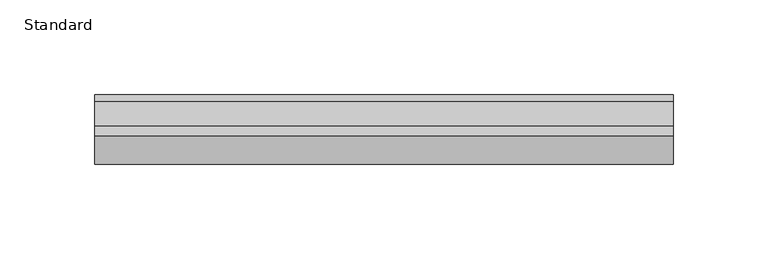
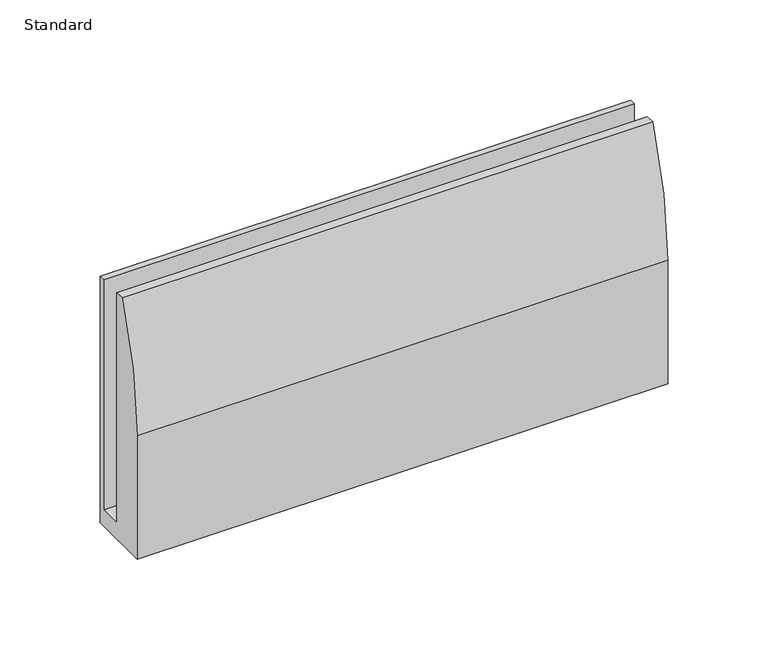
"""IFC4 building model written with IfcOpenShell, lengths in millimetres: furniture geometry, X_Partition-Channel-Duracube-Skirting : Standard."""

from ifc_helpers import new_model, si_unit, point, frame, frame_2d, origin, place, context, project, spatial, polyline, circle_curve, trimmed, segment, composite_curve, outline, extrude, source, transform, mapped, element, save


def standard_c2cb3ece(model_context):
    return source(origin(), model_context, "Body", "SweptSolid", [
        extrude(outline(composite_curve([segment(polyline([(-3.5, 150.0), (0.0, 150.0), (0.0, 0.0), (-36.5, 0.0), (-36.5, 75.0)]), True, "CONTINUOUS"), segment(trimmed(circle_curve(frame_2d((158.5, 75.0)), 195.0), [point((-36.5, 75.0))], [point((-21.5, 150.0))], False, "CARTESIAN"), True, "CONTINUOUS"), segment(polyline([(-21.5, 150.0), (-16.5, 150.0), (-16.5, 10.000005), (-3.5, 10.000005), (-3.5, 150.0)]), True, "CONTINUOUS")], self_intersect=False)), frame((-107.7996736, 0.0, 0.0), z_axis=(1.0, 0.0, 0.0), x_axis=(0.0, 1.0, 0.0)), (0.0, 0.0, 1.0), 305.0),
    ])


if __name__ == "__main__":
    model = new_model("IFC4")
    model_context = context("Model", 3, world=origin())
    ifc_project = project(units=[si_unit("LENGTHUNIT", "METRE", prefix="MILLI")], contexts=[model_context])
    site = spatial("IfcSite", under=ifc_project)
    building = spatial("IfcBuilding", under=site)
    placement = place(None, origin())
    standard_shape = standard_c2cb3ece(model_context)
    element("IfcFurniture", 1, ObjectType="X_Partition-Channel-Duracube-Skirting : Standard", at=placement, inside=building, context=model_context, shape_type="MappedRepresentation", body=[
        mapped(standard_shape, transform((0.0, 0.0, 0.0), x_axis=(1.0, 0.0, 0.0), y_axis=(0.0, 1.0, 0.0), z_axis=(0.0, 0.0, 1.0))),
    ])
    save(model, "model.ifc")
